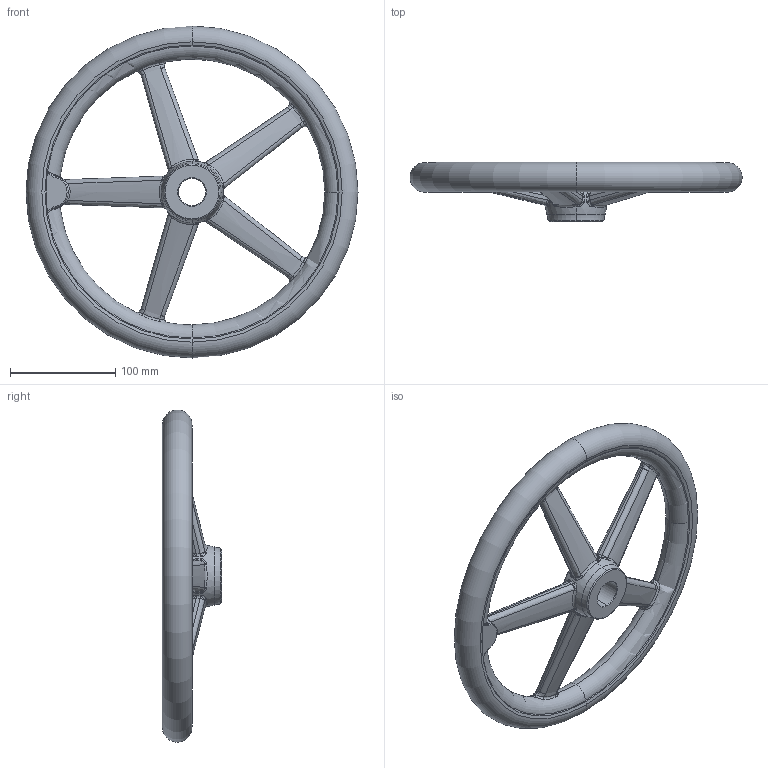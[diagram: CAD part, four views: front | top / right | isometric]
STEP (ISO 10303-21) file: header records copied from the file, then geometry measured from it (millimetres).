
FILE_DESCRIPTION (( 'STEP AP203' ), '1' );
FILE_NAME ('din950_a4_315x26.step', '2010-03-23T09:59:57', ( '_' ), ( '_' ), 'SwSTEP 2.0', 'SolidWorks 2010', '' );
FILE_SCHEMA (( 'CONFIG_CONTROL_DESIGN' ));
Length unit declared in the file: millimetre
Products named in the file (1): din950_a4_315x26
Bounding box: 314.89 x 56 x 314.89 mm (x, y, z)
Volume: 845222.1 mm3; surface area: 127685.1 mm2
Topology: 1 solids, 1 shells, 266 faces, 660 edges, 342 vertices
Faces by surface type: bspline 208, torus 20, cone 16, plane 14, cylinder 8
Entity records: 53324 total; most frequent: CARTESIAN_POINT 48503, ORIENTED_EDGE 1232, EDGE_CURVE 616, DIRECTION 570, B_SPLINE_CURVE_WITH_KNOTS 379, VERTEX_POINT 342, AXIS2_PLACEMENT_3D 274, EDGE_LOOP 268
